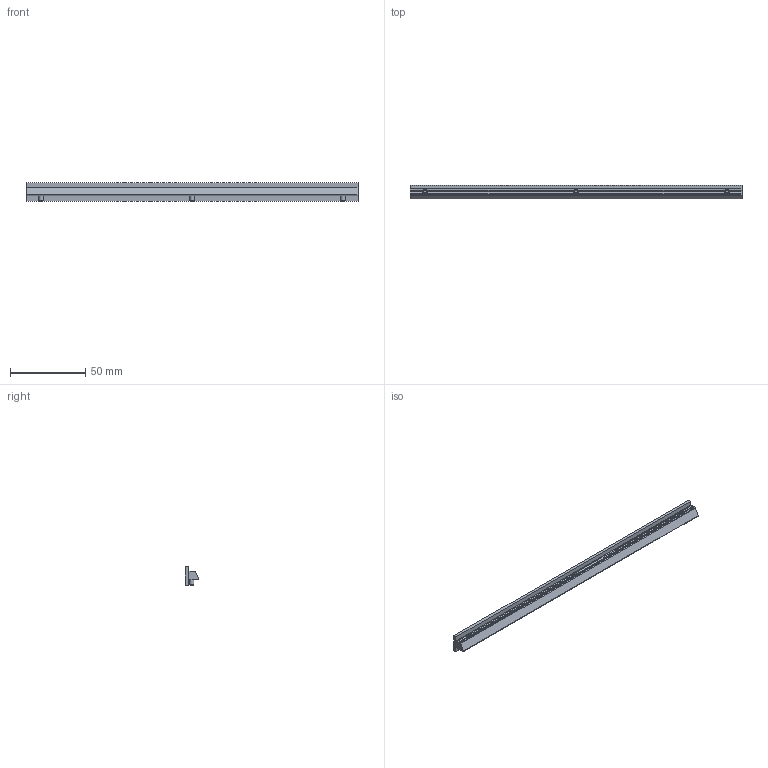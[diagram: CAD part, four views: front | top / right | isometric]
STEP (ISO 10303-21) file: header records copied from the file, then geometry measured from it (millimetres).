
FILE_DESCRIPTION(('STEP AP214'),'1');
FILE_NAME('RS2S-.stp','2017-07-25T07:08:16',(' '),(' '),'Spatial InterOp 3D',' ',' ');
FILE_SCHEMA(('automotive_design'));
Length unit declared in the file: millimetre
Products named in the file (5): RS2S-; R02S-; R05W-; M3*8押しねじ
Assembly tree (6 placements, depth 3):
  RS2S-
    R02S-
    R05W-
      R05W-
      M3*8押しねじ  x3
Bounding box: 220 x 8.99 x 12 mm (x, y, z)
Volume: 12596.9 mm3; surface area: 11771.1 mm2
Topology: 5 solids, 5 shells, 68 faces, 168 edges, 110 vertices
Faces by surface type: plane 48, cylinder 14, cone 6
Full cylindrical faces by diameter (mm): 3 x6
Entity records: 1836 total; most frequent: CARTESIAN_POINT 266, DIRECTION 242, ORIENTED_EDGE 218, EDGE_CURVE 109, AXIS2_PLACEMENT_3D 87, VERTEX_POINT 75, LINE 68, VECTOR 68
